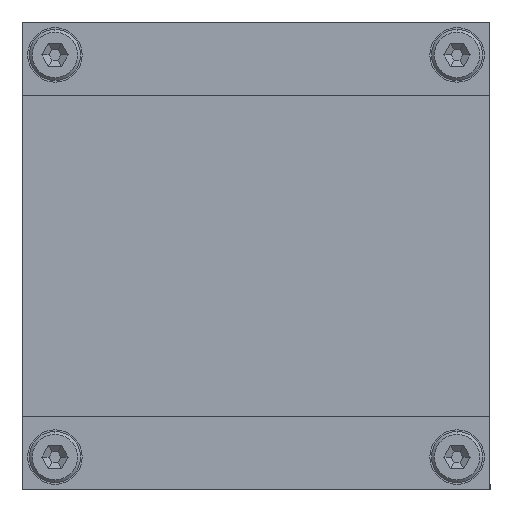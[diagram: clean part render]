
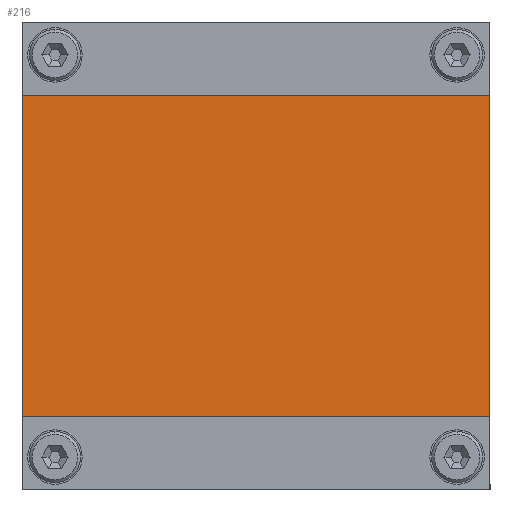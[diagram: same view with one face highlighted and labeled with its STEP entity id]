
A CAD part, front view. The second image highlights one B-rep face of the part: STEP entity #216.
In plain terms, the highlighted planar face has unit normal (0, -1, 0) as drawn and (0, 0, 1) by its records, which use the part's own axes.
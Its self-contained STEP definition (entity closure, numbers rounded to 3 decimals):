
#74 = ORIENTED_EDGE ( 'NONE', *, *, #478, .T. ) ;
#75 = ORIENTED_EDGE ( 'NONE', *, *, #462, .T. ) ;
#76 = EDGE_CURVE ( 'NONE', #583, #570, #1058, .T. ) ;
#84 = ORIENTED_EDGE ( 'NONE', *, *, #548, .F. ) ;
#85 = ORIENTED_EDGE ( 'NONE', *, *, #148, .F. ) ;
#88 = EDGE_LOOP ( 'NONE', ( #74, #75, #131, #132 ) ) ;
#101 = EDGE_LOOP ( 'NONE', ( #85, #155 ) ) ;
#131 = ORIENTED_EDGE ( 'NONE', *, *, #449, .T. ) ;
#132 = ORIENTED_EDGE ( 'NONE', *, *, #403, .T. ) ;
#134 = EDGE_LOOP ( 'NONE', ( #135, #84 ) ) ;
#135 = ORIENTED_EDGE ( 'NONE', *, *, #140, .F. ) ;
#140 = EDGE_CURVE ( 'NONE', #552, #577, #1180, .T. ) ;
#142 = ORIENTED_EDGE ( 'NONE', *, *, #76, .F. ) ;
#148 = EDGE_CURVE ( 'NONE', #546, #551, #1200, .T. ) ;
#151 = ORIENTED_EDGE ( 'NONE', *, *, #567, .F. ) ;
#155 = ORIENTED_EDGE ( 'NONE', *, *, #545, .F. ) ;
#211 = ORIENTED_EDGE ( 'NONE', *, *, #213, .F. ) ;
#212 = EDGE_LOOP ( 'NONE', ( #211, #214 ) ) ;
#213 = EDGE_CURVE ( 'NONE', #787, #830, #1343, .T. ) ;
#214 = ORIENTED_EDGE ( 'NONE', *, *, #765, .F. ) ;
#215 = EDGE_LOOP ( 'NONE', ( #142, #151 ) ) ;
#216 = ADVANCED_FACE ( 'NONE', ( #1351, #1346, #1342, #1352, #1364 ), #1350, .T. ) ;
#403 = EDGE_CURVE ( 'NONE', #404, #564, #1668, .T. ) ;
#404 = VERTEX_POINT ( 'NONE', #1669 ) ;
#449 = EDGE_CURVE ( 'NONE', #450, #404, #1722, .T. ) ;
#450 = VERTEX_POINT ( 'NONE', #1749 ) ;
#462 = EDGE_CURVE ( 'NONE', #474, #450, #1798, .T. ) ;
#474 = VERTEX_POINT ( 'NONE', #1783 ) ;
#478 = EDGE_CURVE ( 'NONE', #564, #474, #1794, .T. ) ;
#545 = EDGE_CURVE ( 'NONE', #551, #546, #1964, .T. ) ;
#546 = VERTEX_POINT ( 'NONE', #1982 ) ;
#548 = EDGE_CURVE ( 'NONE', #577, #552, #1986, .T. ) ;
#551 = VERTEX_POINT ( 'NONE', #1995 ) ;
#552 = VERTEX_POINT ( 'NONE', #1994 ) ;
#564 = VERTEX_POINT ( 'NONE', #2019 ) ;
#567 = EDGE_CURVE ( 'NONE', #570, #583, #2012, .T. ) ;
#570 = VERTEX_POINT ( 'NONE', #2036 ) ;
#577 = VERTEX_POINT ( 'NONE', #2038 ) ;
#583 = VERTEX_POINT ( 'NONE', #2058 ) ;
#765 = EDGE_CURVE ( 'NONE', #830, #787, #2364, .T. ) ;
#787 = VERTEX_POINT ( 'NONE', #2406 ) ;
#830 = VERTEX_POINT ( 'NONE', #2577 ) ;
#1054 = DIRECTION ( 'NONE',  ( 1., 0., 0. ) ) ;
#1055 = DIRECTION ( 'NONE',  ( 0., 0., 1. ) ) ;
#1056 = CARTESIAN_POINT ( 'NONE',  ( 17.7, 17.7, 4.5 ) ) ;
#1057 = AXIS2_PLACEMENT_3D ( 'NONE', #1056, #1055, #1054 ) ;
#1058 = CIRCLE ( 'NONE', #1057, 1.025 ) ;
#1152 = DIRECTION ( 'NONE',  ( 1., 0., 0. ) ) ;
#1179 = DIRECTION ( 'NONE',  ( 0., 0., 1. ) ) ;
#1180 = CIRCLE ( 'NONE', #1182, 1.025 ) ;
#1181 = CARTESIAN_POINT ( 'NONE',  ( 17.7, -17.7, 4.5 ) ) ;
#1182 = AXIS2_PLACEMENT_3D ( 'NONE', #1181, #1179, #1183 ) ;
#1183 = DIRECTION ( 'NONE',  ( 1., 0., 0. ) ) ;
#1197 = CARTESIAN_POINT ( 'NONE',  ( -17.7, -17.7, 4.5 ) ) ;
#1198 = DIRECTION ( 'NONE',  ( 0., 0., 1. ) ) ;
#1199 = AXIS2_PLACEMENT_3D ( 'NONE', #1197, #1198, #1152 ) ;
#1200 = CIRCLE ( 'NONE', #1199, 1.025 ) ;
#1342 = FACE_BOUND ( 'NONE', #134, .T. ) ;
#1343 = CIRCLE ( 'NONE', #1375, 1.025 ) ;
#1344 = DIRECTION ( 'NONE',  ( 1., 0., 0. ) ) ;
#1346 = FACE_BOUND ( 'NONE', #215, .T. ) ;
#1347 = DIRECTION ( 'NONE',  ( 0., 0., 1. ) ) ;
#1348 = CARTESIAN_POINT ( 'NONE',  ( 20.6, 20.6, 4.5 ) ) ;
#1349 = AXIS2_PLACEMENT_3D ( 'NONE', #1348, #1347, #1371 ) ;
#1350 = PLANE ( 'NONE',  #1349 ) ;
#1351 = FACE_BOUND ( 'NONE', #212, .T. ) ;
#1352 = FACE_BOUND ( 'NONE', #101, .T. ) ;
#1364 = FACE_OUTER_BOUND ( 'NONE', #88, .T. ) ;
#1366 = DIRECTION ( 'NONE',  ( 0., 0., 1. ) ) ;
#1371 = DIRECTION ( 'NONE',  ( 1., 0., 0. ) ) ;
#1372 = CARTESIAN_POINT ( 'NONE',  ( -17.7, 17.7, 4.5 ) ) ;
#1375 = AXIS2_PLACEMENT_3D ( 'NONE', #1372, #1366, #1344 ) ;
#1668 = LINE ( 'NONE', #1672, #1671 ) ;
#1669 = CARTESIAN_POINT ( 'NONE',  ( -20.6, -20.6, 4.5 ) ) ;
#1670 = DIRECTION ( 'NONE',  ( 1., 0., 0. ) ) ;
#1671 = VECTOR ( 'NONE', #1670, 1000. ) ;
#1672 = CARTESIAN_POINT ( 'NONE',  ( -20.6, -20.6, 4.5 ) ) ;
#1722 = LINE ( 'NONE', #1752, #1751 ) ;
#1749 = CARTESIAN_POINT ( 'NONE',  ( -20.6, 20.6, 4.5 ) ) ;
#1750 = DIRECTION ( 'NONE',  ( 0., -1., 0. ) ) ;
#1751 = VECTOR ( 'NONE', #1750, 1000. ) ;
#1752 = CARTESIAN_POINT ( 'NONE',  ( -20.6, 20.6, 4.5 ) ) ;
#1764 = DIRECTION ( 'NONE',  ( -1., 0., 0. ) ) ;
#1765 = VECTOR ( 'NONE', #1764, 1000. ) ;
#1766 = CARTESIAN_POINT ( 'NONE',  ( -20.6, 20.6, 4.5 ) ) ;
#1783 = CARTESIAN_POINT ( 'NONE',  ( 20.6, 20.6, 4.5 ) ) ;
#1791 = DIRECTION ( 'NONE',  ( 0., 1., 0. ) ) ;
#1792 = VECTOR ( 'NONE', #1791, 1000. ) ;
#1793 = CARTESIAN_POINT ( 'NONE',  ( 20.6, 20.6, 4.5 ) ) ;
#1794 = LINE ( 'NONE', #1793, #1792 ) ;
#1798 = LINE ( 'NONE', #1766, #1765 ) ;
#1964 = CIRCLE ( 'NONE', #1980, 1.025 ) ;
#1972 = DIRECTION ( 'NONE',  ( 1., 0., 0. ) ) ;
#1977 = DIRECTION ( 'NONE',  ( 0., 0., 1. ) ) ;
#1978 = CARTESIAN_POINT ( 'NONE',  ( -17.7, -17.7, 4.5 ) ) ;
#1980 = AXIS2_PLACEMENT_3D ( 'NONE', #1978, #1977, #1972 ) ;
#1981 = CARTESIAN_POINT ( 'NONE',  ( 17.7, -17.7, 4.5 ) ) ;
#1982 = CARTESIAN_POINT ( 'NONE',  ( -16.675, -17.7, 4.5 ) ) ;
#1983 = DIRECTION ( 'NONE',  ( 1., 0., 0. ) ) ;
#1984 = DIRECTION ( 'NONE',  ( 0., 0., 1. ) ) ;
#1985 = AXIS2_PLACEMENT_3D ( 'NONE', #1981, #1984, #1983 ) ;
#1986 = CIRCLE ( 'NONE', #1985, 1.025 ) ;
#1994 = CARTESIAN_POINT ( 'NONE',  ( 18.725, -17.7, 4.5 ) ) ;
#1995 = CARTESIAN_POINT ( 'NONE',  ( -18.725, -17.7, 4.5 ) ) ;
#2007 = CARTESIAN_POINT ( 'NONE',  ( 17.7, 17.7, 4.5 ) ) ;
#2008 = AXIS2_PLACEMENT_3D ( 'NONE', #2007, #2010, #2009 ) ;
#2009 = DIRECTION ( 'NONE',  ( 1., 0., 0. ) ) ;
#2010 = DIRECTION ( 'NONE',  ( 0., 0., 1. ) ) ;
#2012 = CIRCLE ( 'NONE', #2008, 1.025 ) ;
#2019 = CARTESIAN_POINT ( 'NONE',  ( 20.6, -20.6, 4.5 ) ) ;
#2036 = CARTESIAN_POINT ( 'NONE',  ( 16.675, 17.7, 4.5 ) ) ;
#2038 = CARTESIAN_POINT ( 'NONE',  ( 16.675, -17.7, 4.5 ) ) ;
#2058 = CARTESIAN_POINT ( 'NONE',  ( 18.725, 17.7, 4.5 ) ) ;
#2329 = DIRECTION ( 'NONE',  ( 1., 0., 0. ) ) ;
#2330 = DIRECTION ( 'NONE',  ( 0., 0., 1. ) ) ;
#2361 = CARTESIAN_POINT ( 'NONE',  ( -17.7, 17.7, 4.5 ) ) ;
#2362 = AXIS2_PLACEMENT_3D ( 'NONE', #2361, #2330, #2329 ) ;
#2364 = CIRCLE ( 'NONE', #2362, 1.025 ) ;
#2406 = CARTESIAN_POINT ( 'NONE',  ( -16.675, 17.7, 4.5 ) ) ;
#2577 = CARTESIAN_POINT ( 'NONE',  ( -18.725, 17.7, 4.5 ) ) ;
